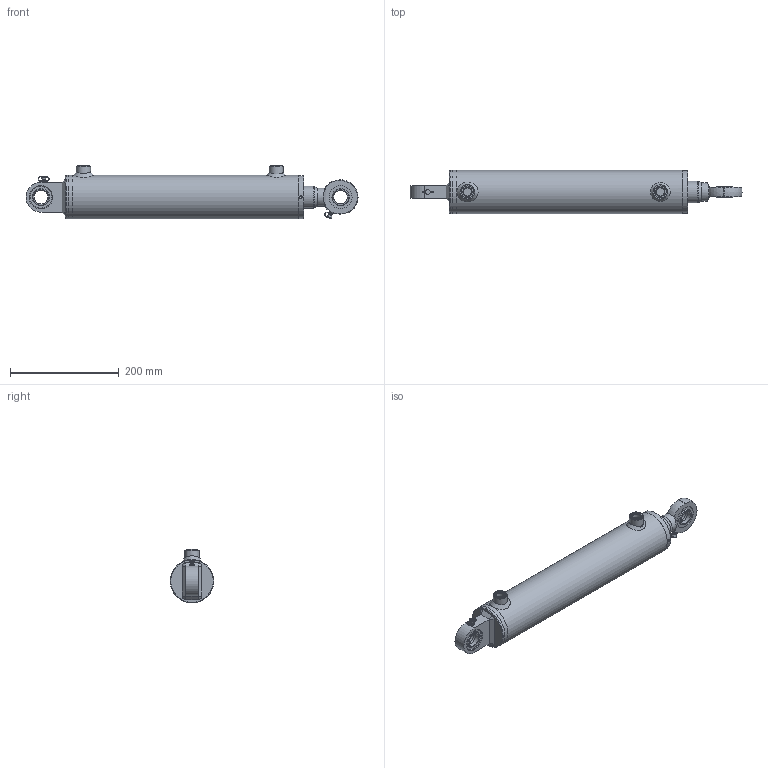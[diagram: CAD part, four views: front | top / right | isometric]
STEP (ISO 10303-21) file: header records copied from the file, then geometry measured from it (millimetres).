
FILE_DESCRIPTION( ( 'Unknown' ), '1' );
FILE_NAME( 'E:/LIBRERIA_3d/CILINDRI/HMB/HMB4400300.stp', 'Unknown', ( 'Unknown' ), ( 'Unknown' ), 'PSStep 17.0.49', 'Unknown', ' ' );
FILE_SCHEMA( ( 'AUTOMOTIVE_DESIGN { 1 0 10303 214 1 1 1 1 }' ) );
Length unit declared in the file: millimetre
Products named in the file (38): CG08007040; CT00070027; CSTSF025N0; An00006001; CSTS025N_CORPO; CSAI002042; CSAI002042-oa5; STL4500300-oa4; Saldatura d'angolo 1-oa2; FTM4500300-oa3; CBSC220600; CSTSF025C0; tsc25c_CORPO; AN00006001; CSTS025N00; CGE0250000; APGR013000; HM04400300; Saldatura con preparazione 1-oa0; Saldatura d'angolo 1-oa1; CF00070080; CBS0600000; CDB0002720; APG0600000; SBL4040300; CSTS025C00; cge0250000; Assem1; CSCS004010; Saldatura d'angolo 1-oa6; Saldatura d'angolo 2-oa7
Assembly tree (33 placements, depth 4):
  Saldatura d'angolo 1-oa2
  Saldatura d'angolo 1-oa2
  Saldatura d'angolo 1-oa1
  Saldatura d'angolo 1-oa1
  Assem1
    CSCS004010
    APGR013000  x2
    HM04400300
      Saldatura con preparazione 1-oa0
      Saldatura con preparazione 1-oa0
      CF00070080
      CBS0600000
      CDB0002720
      APG0600000  x2
      SBL4040300
      CG08007040
        CG08007040
      CT00070027
        CT00070027
      STL4500300-oa4
        FTM4500300-oa3
        CBSC220600
    CSTS025C00
      cge0250000
      APGR013000
      CSTSF025C0
        tsc25c_CORPO
        AN00006001
    CSTS025N00
      CGE0250000
      APGR013000
      CSTSF025N0
        An00006001
        CSTS025N_CORPO
        CSAI002042
        CSAI002042-oa5
Bounding box: 609.5 x 80 x 99 mm (x, y, z)
Volume: 1467733.4 mm3; surface area: 401067.2 mm2
Topology: 33 solids, 33 shells, 399 faces, 834 edges, 524 vertices
Faces by surface type: plane 152, cylinder 103, bspline 48, torus 45, cone 44, sphere 7
Full cylindrical faces by diameter (mm): 2 x4, 4 x1, 4.25 x1, 5 x12, 6 x4, 7 x2, 8 x4, 9 x4, 14.95 x2, 16 x2, 16.6 x2, 22 x2, 25 x4, 26 x2, 26.4 x1, 27 x5, 33.2 x1, 33.5 x3, 40 x6, 41 x1, 42 x9, 43 x1, 48.6 x1, 50 x2, 64.18 x2, 65 x1, 68.34 x2, 69.9 x1, 70 x1, 70.3 x1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
Entity records: 15772 total; most frequent: CARTESIAN_POINT 6632, DIRECTION 1346, ORIENTED_EDGE 912, AXIS2_PLACEMENT_3D 616, EDGE_LOOP 606, FACE_OUTER_BOUND 484, EDGE_CURVE 456, VERTEX_POINT 390
